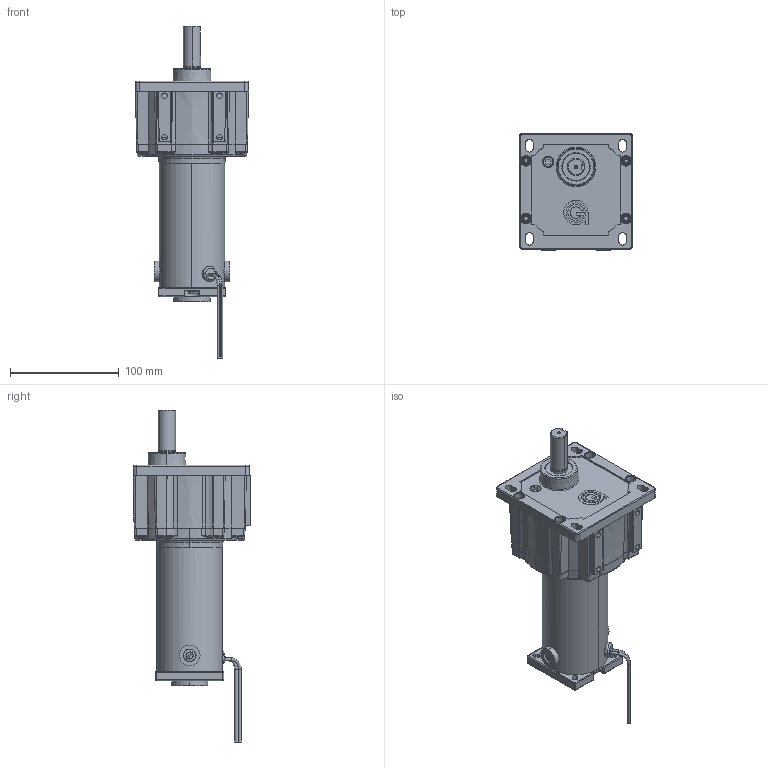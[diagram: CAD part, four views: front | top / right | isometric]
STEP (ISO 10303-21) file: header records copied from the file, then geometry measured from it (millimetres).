
FILE_DESCRIPTION (( 'STEP AP203' ), '1' );
FILE_NAME ('OUTLINE PM6015-PS2100.STEP', '2006-11-15T21:13:10', ( 'Groschopp' ), ( 'Groschopp' ), 'SwSTEP 2.0', 'SolidWorks 2007', '' );
FILE_SCHEMA (( 'CONFIG_CONTROL_DESIGN' ));
Length unit declared in the file: inch
Products named in the file (1): OUTLINE PM6015-PS2100
Bounding box: 104.29 x 108.46 x 305.66 mm (x, y, z)
Surface area: 94047.5 mm2 (no closed solid volume)
Topology: 0 solids, 26 shells, 592 faces, 1589 edges, 1007 vertices
Faces by surface type: plane 187, cylinder 153, cone 122, torus 102, bspline 28
Entity records: 19754 total; most frequent: CARTESIAN_POINT 4879, DIRECTION 3286, ORIENTED_EDGE 2895, EDGE_CURVE 1573, AXIS2_PLACEMENT_3D 1307, VERTEX_POINT 1007, CIRCLE 742, VECTOR 672
